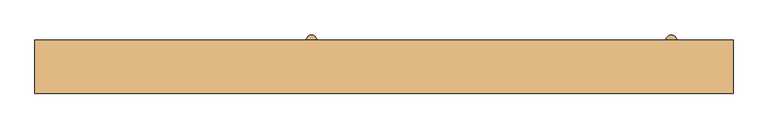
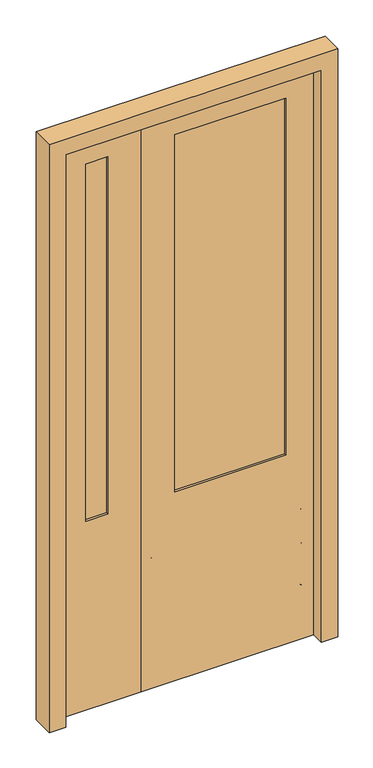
"""IFC4 building model written with IfcOpenShell, lengths in millimetres: door geometry, C&L Quercy tiercée mur simple : 120*275."""

from ifc_helpers import new_model, si_unit, point, frame, origin, place, context, project, spatial, polyline, circle_curve, ellipse_curve, trimmed, outline, extrude, faceted_brep, source, transform, mapped, element, save
from ifc_brep_helpers import plane_surface, revolved_surface, advanced_brep


def door_03a1ffe5(model_context):
    return source(origin(), model_context, "Body", "SolidModel", [
        advanced_brep(
        [(335.0, 95.0, 580.0), (345.0, 85.0, 580.0), (325.0, 85.0, 580.0), (335.0, 85.0, 580.0)],
        [
            (0, 1, circle_curve(frame((335.0, 85.0, 580.0), z_axis=(0.0, 0.0, -1.0), x_axis=(0.0, 1.0, 0.0)), 10.0)),
            (1, 2, circle_curve(frame((335.0, 85.0, 580.0), z_axis=(0.0, 1.0, 0.0), x_axis=(-1.0, 0.0, 0.0)), 10.0)),
            (2, 0, circle_curve(frame((335.0, 85.0, 580.0), z_axis=(0.0, 0.0, -1.0), x_axis=(0.0, 1.0, 0.0)), 10.0)),
            (2, 1, circle_curve(frame((335.0, 85.0, 580.0), z_axis=(0.0, 1.0, 0.0), x_axis=(-1.0, 0.0, 0.0)), 10.0)),
            (1, 3),
            (3, 2),
        ],
        [
            revolved_surface(trimmed(ellipse_curve(frame((335.0, 85.0, 580.0), z_axis=(0.0, 0.0, -1.0), x_axis=(0.0, 1.0, 0.0)), 10.0, 10.0), [point((325.0, 85.0, 580.0))], [point((335.0, 95.0, 580.0))], True, "CARTESIAN"), (335.0, -463.130768, 580.0), (0.0, 1.0, 0.0)),
            plane_surface(frame((335.0, 85.0, 580.0), z_axis=(0.0, -1.0, 0.0), x_axis=(-1.0, 0.0, 0.0))),
        ],
        [
            (0, [[1, 2, 3]]),
            (0, [[-3, 4, -1]]),
            (1, [[5, 6, -2]]),
            (1, [[-6, -5, -4]]),
        ],
    ),
        advanced_brep(
        [(-335.0, 95.0, 580.0), (-325.0, 85.0, 580.0), (-345.0, 85.0, 580.0), (-335.0, 85.0, 580.0)],
        [
            (0, 1, circle_curve(frame((-335.0, 85.0, 580.0), z_axis=(0.0, 0.0, -1.0), x_axis=(0.0, 1.0, 0.0)), 10.0)),
            (1, 2, circle_curve(frame((-335.0, 85.0, 580.0), z_axis=(0.0, 1.0, 0.0), x_axis=(-1.0, 0.0, 0.0)), 10.0)),
            (2, 0, circle_curve(frame((-335.0, 85.0, 580.0), z_axis=(0.0, 0.0, -1.0), x_axis=(0.0, 1.0, 0.0)), 10.0)),
            (2, 1, circle_curve(frame((-335.0, 85.0, 580.0), z_axis=(0.0, 1.0, 0.0), x_axis=(-1.0, 0.0, 0.0)), 10.0)),
            (1, 3),
            (3, 2),
        ],
        [
            revolved_surface(trimmed(ellipse_curve(frame((-335.0, 85.0, 580.0), z_axis=(0.0, 0.0, -1.0), x_axis=(0.0, 1.0, 0.0)), 10.0, 10.0), [point((-345.0, 85.0, 580.0))], [point((-335.0, 95.0, 580.0))], True, "CARTESIAN"), (-335.0, -463.130768, 580.0), (0.0, 1.0, 0.0)),
            plane_surface(frame((-335.0, 85.0, 580.0), z_axis=(0.0, -1.0, 0.0), x_axis=(-1.0, 0.0, 0.0))),
        ],
        [
            (0, [[1, 2, 3]]),
            (0, [[-3, 4, -1]]),
            (1, [[5, 6, -2]]),
            (1, [[-6, -5, -4]]),
        ],
    ),
        advanced_brep(
        [(345.0, 85.0, 420.0), (335.0, 85.0, 420.0), (325.0, 85.0, 420.0), (335.0, 95.0, 420.0)],
        [
            (0, 1),
            (1, 2),
            (2, 0, circle_curve(frame((335.0, 85.0, 420.0), z_axis=(0.0, -1.0, 0.0), x_axis=(-1.0, 0.0, 0.0)), 10.0)),
            (0, 2, circle_curve(frame((335.0, 85.0, 420.0), z_axis=(0.0, -1.0, 0.0), x_axis=(-1.0, 0.0, 0.0)), 10.0)),
            (3, 0, circle_curve(frame((335.0, 85.0, 420.0), z_axis=(0.0, 0.0, -1.0), x_axis=(0.0, 1.0, 0.0)), 10.0)),
            (2, 3, circle_curve(frame((335.0, 85.0, 420.0), z_axis=(0.0, 0.0, -1.0), x_axis=(0.0, 1.0, 0.0)), 10.0)),
        ],
        [
            plane_surface(frame((335.0, 85.0, 420.0), z_axis=(0.0, -1.0, 0.0), x_axis=(-1.0, 0.0, 0.0))),
            revolved_surface(trimmed(ellipse_curve(frame((335.0, 85.0, 420.0), z_axis=(0.0, 0.0, -1.0), x_axis=(0.0, 1.0, 0.0)), 10.0, 10.0), [point((325.0, 85.0, 420.0))], [point((335.0, 95.0, 420.0))], True, "CARTESIAN"), (335.0, -463.130768, 420.0), (0.0, 1.0, 0.0)),
        ],
        [
            (0, [[1, 2, 3]]),
            (0, [[-2, -1, 4]]),
            (1, [[5, -3, 6]]),
            (1, [[-6, -4, -5]]),
        ],
    ),
        advanced_brep(
        [(-325.0, 85.0, 420.0), (-335.0, 85.0, 420.0), (-345.0, 85.0, 420.0), (-335.0, 95.0, 420.0)],
        [
            (0, 1),
            (1, 2),
            (2, 0, circle_curve(frame((-335.0, 85.0, 420.0), z_axis=(0.0, -1.0, 0.0), x_axis=(-1.0, 0.0, 0.0)), 10.0)),
            (0, 2, circle_curve(frame((-335.0, 85.0, 420.0), z_axis=(0.0, -1.0, 0.0), x_axis=(-1.0, 0.0, 0.0)), 10.0)),
            (3, 0, circle_curve(frame((-335.0, 85.0, 420.0), z_axis=(0.0, 0.0, -1.0), x_axis=(0.0, 1.0, 0.0)), 10.0)),
            (2, 3, circle_curve(frame((-335.0, 85.0, 420.0), z_axis=(0.0, 0.0, -1.0), x_axis=(0.0, 1.0, 0.0)), 10.0)),
        ],
        [
            plane_surface(frame((-335.0, 85.0, 420.0), z_axis=(0.0, -1.0, 0.0), x_axis=(-1.0, 0.0, 0.0))),
            revolved_surface(trimmed(ellipse_curve(frame((-335.0, 85.0, 420.0), z_axis=(0.0, 0.0, -1.0), x_axis=(0.0, 1.0, 0.0)), 10.0, 10.0), [point((-345.0, 85.0, 420.0))], [point((-335.0, 95.0, 420.0))], True, "CARTESIAN"), (-335.0, -463.130768, 420.0), (0.0, 1.0, 0.0)),
        ],
        [
            (0, [[1, 2, 3]]),
            (0, [[-2, -1, 4]]),
            (1, [[5, -3, 6]]),
            (1, [[-6, -4, -5]]),
        ],
    ),
        advanced_brep(
        [(345.0, 85.0, 220.0), (335.0, 85.0, 220.0), (325.0, 85.0, 220.0), (335.0, 95.0, 220.0)],
        [
            (0, 1),
            (1, 2),
            (2, 0, circle_curve(frame((335.0, 85.0, 220.0), z_axis=(0.0, -1.0, 0.0), x_axis=(-1.0, 0.0, 0.0)), 10.0)),
            (0, 2, circle_curve(frame((335.0, 85.0, 220.0), z_axis=(0.0, -1.0, 0.0), x_axis=(-1.0, 0.0, 0.0)), 10.0)),
            (3, 0, circle_curve(frame((335.0, 85.0, 220.0), z_axis=(0.0, 0.0, -1.0), x_axis=(0.0, 1.0, 0.0)), 10.0)),
            (2, 3, circle_curve(frame((335.0, 85.0, 220.0), z_axis=(0.0, 0.0, -1.0), x_axis=(0.0, 1.0, 0.0)), 10.0)),
        ],
        [
            plane_surface(frame((335.0, 85.0, 220.0), z_axis=(0.0, -1.0, 0.0), x_axis=(-1.0, 0.0, 0.0))),
            revolved_surface(trimmed(ellipse_curve(frame((335.0, 85.0, 220.0), z_axis=(0.0, 0.0, -1.0), x_axis=(0.0, 1.0, 0.0)), 10.0, 10.0), [point((325.0, 85.0, 220.0))], [point((335.0, 95.0, 220.0))], True, "CARTESIAN"), (335.0, -463.130768, 220.0), (0.0, 1.0, 0.0)),
        ],
        [
            (0, [[1, 2, 3]]),
            (0, [[-2, -1, 4]]),
            (1, [[5, -3, 6]]),
            (1, [[-6, -4, -5]]),
        ],
    ),
        advanced_brep(
        [(-325.0, 85.0, 220.0), (-335.0, 85.0, 220.0), (-345.0, 85.0, 220.0), (-335.0, 95.0, 220.0)],
        [
            (0, 1),
            (1, 2),
            (2, 0, circle_curve(frame((-335.0, 85.0, 220.0), z_axis=(0.0, -1.0, 0.0), x_axis=(-1.0, 0.0, 0.0)), 10.0)),
            (0, 2, circle_curve(frame((-335.0, 85.0, 220.0), z_axis=(0.0, -1.0, 0.0), x_axis=(-1.0, 0.0, 0.0)), 10.0)),
            (3, 0, circle_curve(frame((-335.0, 85.0, 220.0), z_axis=(0.0, 0.0, -1.0), x_axis=(0.0, 1.0, 0.0)), 10.0)),
            (2, 3, circle_curve(frame((-335.0, 85.0, 220.0), z_axis=(0.0, 0.0, -1.0), x_axis=(0.0, 1.0, 0.0)), 10.0)),
        ],
        [
            plane_surface(frame((-335.0, 85.0, 220.0), z_axis=(0.0, -1.0, 0.0), x_axis=(-1.0, 0.0, 0.0))),
            revolved_surface(trimmed(ellipse_curve(frame((-335.0, 85.0, 220.0), z_axis=(0.0, 0.0, -1.0), x_axis=(0.0, 1.0, 0.0)), 10.0, 10.0), [point((-345.0, 85.0, 220.0))], [point((-335.0, 95.0, 220.0))], True, "CARTESIAN"), (-335.0, -463.130768, 220.0), (0.0, 1.0, 0.0)),
        ],
        [
            (0, [[1, 2, 3]]),
            (0, [[-2, -1, 4]]),
            (1, [[5, -3, 6]]),
            (1, [[-6, -4, -5]]),
        ],
    ),
        extrude(outline(polyline([(250.0, 75.0), (250.0, 55.0), (-250.0, 55.0), (-250.0, 75.0), (250.0, 75.0)])), frame((0.0, 0.0, 900.0), z_axis=(0.0, 0.0, 1.0), x_axis=(1.0, 0.0, 0.0)), (0.0, 0.0, 1.0), 1700.0),
        extrude(outline(polyline([(2750.0, -400.0), (0.0, -400.0), (0.0, 400.0), (2750.0, 400.0), (2750.0, -400.0)]), holes=[polyline([(2600.0, 250.0), (900.0, 250.0), (900.0, -250.0), (2600.0, -250.0), (2600.0, 250.0)])]), frame((0.0, 45.0, 0.0), z_axis=(0.0, 1.0, 0.0), x_axis=(0.0, 0.0, 1.0)), (0.0, 0.0, 1.0), 40.0),
        extrude(outline(polyline([(-650.0, 75.0), (-550.0, 75.0), (-550.0, 55.0), (-650.0, 55.0), (-650.0, 75.0)])), frame((0.0, 0.0, 900.0), z_axis=(0.0, 0.0, 1.0), x_axis=(1.0, 0.0, 0.0)), (0.0, 0.0, 1.0), 1700.0),
        extrude(outline(polyline([(2750.0, -800.0), (0.0, -800.0), (0.0, -400.0), (2750.0, -400.0), (2750.0, -800.0)]), holes=[polyline([(2600.0, -550.0), (900.0, -550.0), (900.0, -650.0), (2600.0, -650.0), (2600.0, -550.0)])]), frame((0.0, 45.0, 0.0), z_axis=(0.0, 1.0, 0.0), x_axis=(0.0, 0.0, 1.0)), (0.0, 0.0, 1.0), 40.0),
        faceted_brep([(-800.0, 85.0, 0.0), (-800.0, 45.0, 0.0), (-775.0, 45.0, 0.0), (-775.0, -15.0, 0.0), (-850.0, -15.0, 0.0), (-850.0, 85.0, 0.0), (-850.0, 85.0, 2800.0), (450.0, 85.0, 2800.0), (450.0, 85.0, 0.0), (400.0, 85.0, 0.0), (400.0, 85.0, 2750.0), (-800.0, 85.0, 2750.0), (-850.0, -15.0, 2800.0), (-775.0, -15.0, 2725.0), (375.0, -15.0, 2725.0), (375.0, -15.0, 0.0), (450.0, -15.0, 0.0), (450.0, -15.0, 2800.0), (-775.0, 45.0, 2725.0), (-800.0, 45.0, 2750.0), (400.0, 45.0, 2750.0), (400.0, 45.0, 0.0), (375.0, 45.0, 0.0), (375.0, 45.0, 2725.0)], [[[0, 1, 2, 3, 4, 5]], [[5, 6, 7, 8, 9, 10, 11, 0]], [[4, 12, 6, 5]], [[3, 13, 14, 15, 16, 17, 12, 4]], [[2, 18, 13, 3]], [[1, 19, 20, 21, 22, 23, 18, 2]], [[0, 11, 19, 1]], [[9, 21, 20, 10]], [[8, 16, 15, 22, 21, 9]], [[7, 17, 16, 8]], [[14, 23, 22, 15]], [[6, 12, 17, 7]], [[13, 18, 23, 14]], [[10, 20, 19, 11]]]),
    ])


if __name__ == "__main__":
    model = new_model("IFC4")
    model_context = context("Model", 3, world=origin())
    ifc_project = project(units=[si_unit("LENGTHUNIT", "METRE", prefix="MILLI")], contexts=[model_context])
    site = spatial("IfcSite", under=ifc_project)
    building = spatial("IfcBuilding", under=site)
    placement = place(None, origin())
    door_shape = door_03a1ffe5(model_context)
    element("IfcDoor", 1, ObjectType="C&L Quercy tiercée mur simple : 120*275", at=placement, inside=building, context=model_context, shape_type="MappedRepresentation", body=[
        mapped(door_shape, transform((0.0, 0.0, 0.0), x_axis=(1.0, 0.0, 0.0), y_axis=(0.0, 1.0, 0.0), z_axis=(0.0, 0.0, 1.0))),
    ])
    save(model, "model.ifc")
